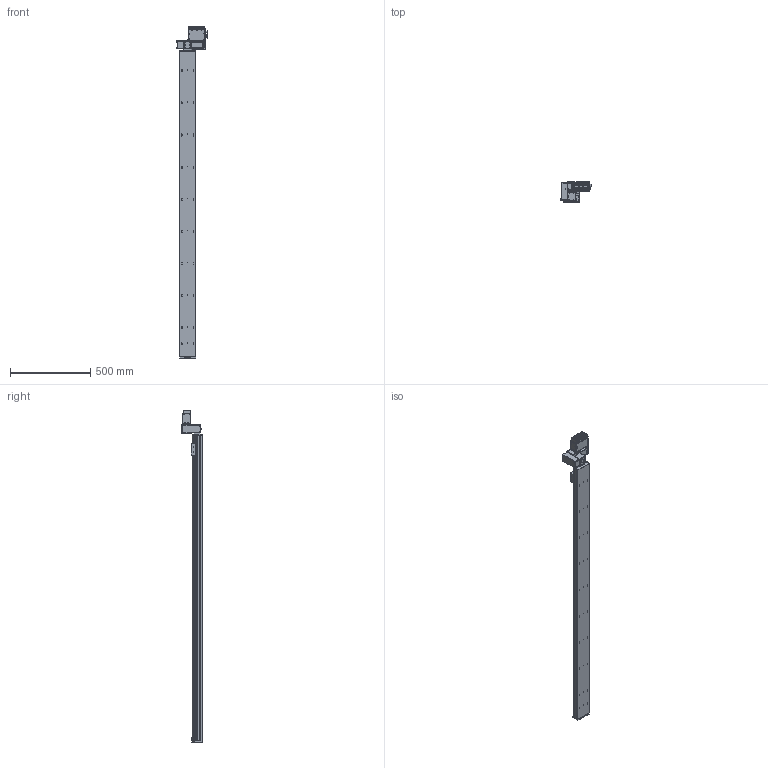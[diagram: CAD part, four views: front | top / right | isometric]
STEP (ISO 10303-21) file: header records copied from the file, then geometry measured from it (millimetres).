
FILE_DESCRIPTION (( 'STEP AP203' ), '1' );
FILE_NAME ('S10 TBN LT S1900.STEP', '2012-06-19T09:53:34', ( 'Conseil Régional Haute-Normandie' ), ( 'Conseil Régional Haute-Normandie' ), 'SwSTEP 2.0', 'SolidWorks 2010', '' );
FILE_SCHEMA (( 'CONFIG_CONTROL_DESIGN' ));
Length unit declared in the file: millimetre
Products named in the file (29): cache t皻e_Default; Cvis M5 L30_Default; renvoi LH_Default; vis M5 L12_Default; Colonnette_3; BU41 Carte Alimentation P05_3; BU45 Carte d''axe A11_5; Connecteur rond D12 4cts_5; Sub D 9cts 90_X2_00B_X0__3; Radiateur profil_X2_00E9_X0_ 100x25_3; axe 1900; S10 TBN LT S1900; cache t皻e axe_Default; embout; palette tbn; plaque de bout s10_Default; Plaque racord_Default; Vis M5 L16-2_Default_1; vis M5 L5_Default; Assem1_7; T_X2_00F4_X0_le contre le moteur_5; Moteur 60BLDC90A_3; Couvercle_3; T_X2_00F4_X0_le fond_3; Connecteur rond D10 3cts_5; Colonnette ronde_3; T_X2_00F4_X0_le Arri_X2_00E8_X0_re_5; T_X2_00F4_X0_le lat_X2_00E9_X0_rale_5; Vis TF 3 torkx_1_1
Assembly tree (62 placements, depth 3):
  S10 TBN LT S1900
    Cvis M5 L30_Default  x2
    vis M5 L5_Default  x4
    plaque de bout s10_Default
    Assem1_7
      Vis TF 3 torkx_1_1  x21
      Connecteur rond D10 3cts_5  x2
      T_X2_00F4_X0_le lat_X2_00E9_X0_rale_5  x2
      T_X2_00F4_X0_le Arri_X2_00E8_X0_re_5
      T_X2_00F4_X0_le contre le moteur_5
      Colonnette_3  x2
      Colonnette ronde_3
      Moteur 60BLDC90A_3
      BU45 Carte d''axe A11_5
      BU41 Carte Alimentation P05_3
      Connecteur rond D12 4cts_5
      T_X2_00F4_X0_le fond_3
      Couvercle_3
      Radiateur profil_X2_00E9_X0_ 100x25_3
      Sub D 9cts 90_X2_00B_X0__3
    cache t皻e_Default  x2
    embout
    Vis M5 L16-2_Default_1  x4
    cache t皻e axe_Default
    vis M5 L12_Default  x4
    renvoi LH_Default
    palette tbn
    axe 1900
    Plaque racord_Default
Bounding box: 189.8 x 127.25 x 2066.74 mm (x, y, z)
Volume: 10661580.3 mm3; surface area: 1203069.5 mm2
Topology: 61 solids, 61 shells, 2325 faces, 5763 edges, 3722 vertices
Faces by surface type: plane 1102, cylinder 1006, cone 174, bspline 40, torus 3
Entity records: 48532 total; most frequent: CARTESIAN_POINT 8748, DIRECTION 7854, ORIENTED_EDGE 7122, EDGE_CURVE 3561, AXIS2_PLACEMENT_3D 2927, VERTEX_POINT 2326, VECTOR 2000, LINE 2000
